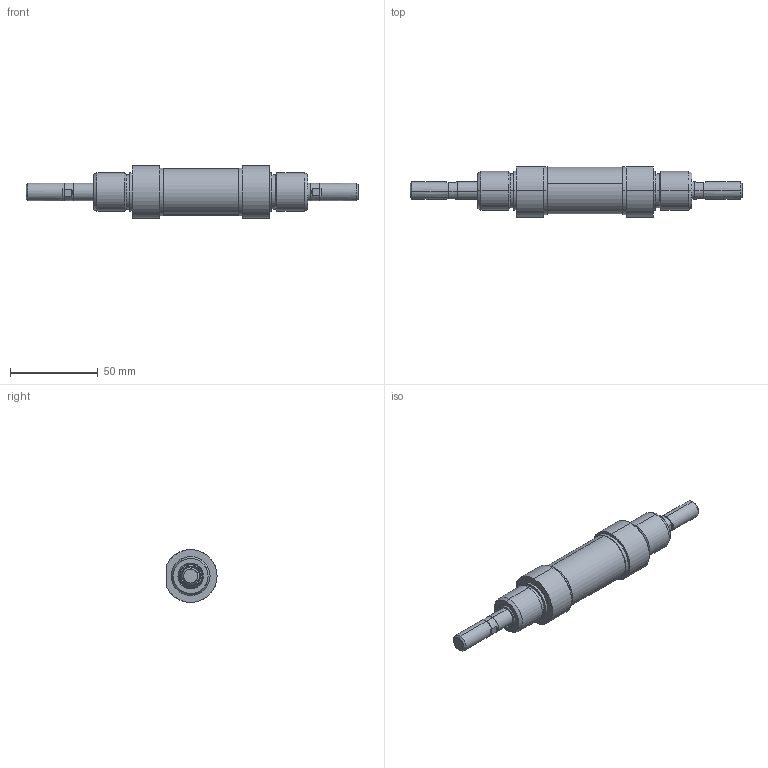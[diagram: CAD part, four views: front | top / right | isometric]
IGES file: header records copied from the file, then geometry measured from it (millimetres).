
Start section: SolidWorks IGES file using analytic representation for surfaces
Global section: file name: K:\Disegni Esecutivi\Cilindri\2_DISEGNI_cilindri_in_produzione\2_Minicilindri ISO 6432\1Minisolidworks\6_minicilidro iso 6432 _25 solidworks\CPLXMINI25\MJ025\MJ025_PIENO\MJ0250010A.igs; native system: SolidWorks 2011; preprocessor: SolidWorks 2011; author: cad01; date: 110506.142645; units: millimetre
Bounding box: 189 x 28.5 x 30 mm (x, y, z)
Surface area: 16278.9 mm2 (no closed solid volume)
Topology: 0 solids, 0 shells, 124 faces, 2144 edges, 2144 vertices
Faces by surface type: revolution 80, bspline 44
